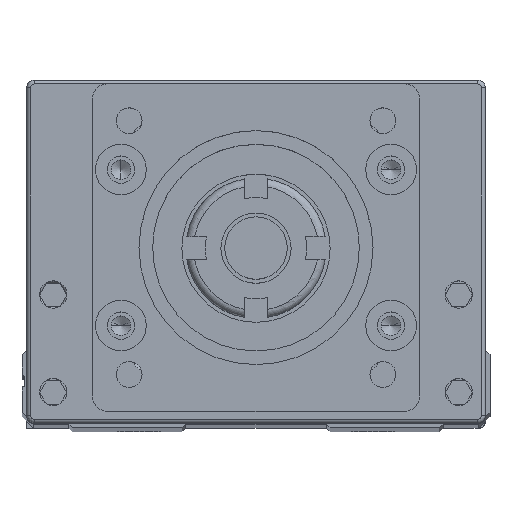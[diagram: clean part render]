
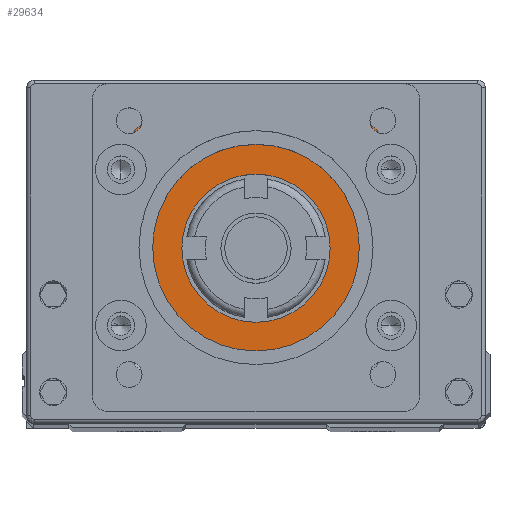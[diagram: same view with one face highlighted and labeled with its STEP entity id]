
A CAD part, top view. The second image highlights one B-rep face of the part: STEP entity #29634.
In plain terms, the highlighted planar face has unit normal (0, 0, 1).
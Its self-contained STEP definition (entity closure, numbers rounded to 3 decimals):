
#312 = CIRCLE ( 'NONE', #37315, 14. ) ;
#625 = DIRECTION ( 'NONE',  ( 0., -1., 0. ) ) ;
#655 = CARTESIAN_POINT ( 'NONE',  ( 12.935, 12.398, 168.5 ) ) ;
#809 = CARTESIAN_POINT ( 'NONE',  ( 52.335, 26.398, 168.5 ) ) ;
#1648 = LINE ( 'NONE', #36766, #21023 ) ;
#1926 = VECTOR ( 'NONE', #45859, 1000. ) ;
#2012 = VECTOR ( 'NONE', #16181, 1000. ) ;
#2049 = ORIENTED_EDGE ( 'NONE', *, *, #22756, .F. ) ;
#2461 = ORIENTED_EDGE ( 'NONE', *, *, #50773, .F. ) ;
#3057 = ORIENTED_EDGE ( 'NONE', *, *, #45437, .F. ) ;
#3196 = VECTOR ( 'NONE', #62003, 1000. ) ;
#3291 = DIRECTION ( 'NONE',  ( 0., 1., 0. ) ) ;
#3958 = ORIENTED_EDGE ( 'NONE', *, *, #7715, .F. ) ;
#4781 = EDGE_LOOP ( 'NONE', ( #30716, #48686, #2049, #20192, #2461, #16911, #3057, #3958, #47527, #38876, #30825, #26022, #53762, #33812 ) ) ;
#4784 = PLANE ( 'NONE',  #65295 ) ;
#4857 = CARTESIAN_POINT ( 'NONE',  ( 3.935, 26.398, 168.5 ) ) ;
#5637 = CARTESIAN_POINT ( 'NONE',  ( 40.32, 12.398, 168.5 ) ) ;
#6469 = VECTOR ( 'NONE', #62806, 1000. ) ;
#7257 = CARTESIAN_POINT ( 'NONE',  ( 12.935, 29.398, 168.5 ) ) ;
#7715 = EDGE_CURVE ( 'NONE', #45004, #54848, #41383, .T. ) ;
#8313 = DIRECTION ( 'NONE',  ( 0., 0., 1. ) ) ;
#9061 = VERTEX_POINT ( 'NONE', #25728 ) ;
#10193 = CARTESIAN_POINT ( 'NONE',  ( 51.735, 29.398, 168.5 ) ) ;
#11013 = EDGE_CURVE ( 'NONE', #60737, #51962, #1648, .T. ) ;
#11083 = EDGE_CURVE ( 'NONE', #45004, #13767, #64881, .T. ) ;
#11144 = CARTESIAN_POINT ( 'NONE',  ( 32.335, 23.898, 168.5 ) ) ;
#11624 = VECTOR ( 'NONE', #17752, 1000. ) ;
#12360 = EDGE_CURVE ( 'NONE', #13704, #50102, #312, .T. ) ;
#13647 = LINE ( 'NONE', #23829, #52864 ) ;
#13704 = VERTEX_POINT ( 'NONE', #5637 ) ;
#13767 = VERTEX_POINT ( 'NONE', #21204 ) ;
#15346 = DIRECTION ( 'NONE',  ( 0., 0., -1. ) ) ;
#15604 = VECTOR ( 'NONE', #57444, 1000. ) ;
#15689 = CARTESIAN_POINT ( 'NONE',  ( 12.935, 26.398, 168.5 ) ) ;
#16181 = DIRECTION ( 'NONE',  ( -1., 0., 0. ) ) ;
#16712 = CIRCLE ( 'NONE', #44307, 9.5 ) ;
#16911 = ORIENTED_EDGE ( 'NONE', *, *, #18882, .F. ) ;
#16958 = CARTESIAN_POINT ( 'NONE',  ( 22.835, 23.898, 168.5 ) ) ;
#16977 = CARTESIAN_POINT ( 'NONE',  ( 12.935, 32.398, 168.5 ) ) ;
#17230 = EDGE_CURVE ( 'NONE', #42707, #39587, #40648, .T. ) ;
#17752 = DIRECTION ( 'NONE',  ( 0., 1., 0. ) ) ;
#18408 = CARTESIAN_POINT ( 'NONE',  ( 12.935, 26.398, 168.5 ) ) ;
#18882 = EDGE_CURVE ( 'NONE', #29448, #19863, #46787, .T. ) ;
#19448 = CARTESIAN_POINT ( 'NONE',  ( 51.735, 32.398, 168.5 ) ) ;
#19863 = VERTEX_POINT ( 'NONE', #46406 ) ;
#20192 = ORIENTED_EDGE ( 'NONE', *, *, #12360, .F. ) ;
#21023 = VECTOR ( 'NONE', #3291, 1000. ) ;
#21204 = CARTESIAN_POINT ( 'NONE',  ( 52.335, 32.398, 168.5 ) ) ;
#22330 = DIRECTION ( 'NONE',  ( 1., 0., 0. ) ) ;
#22587 = DIRECTION ( 'NONE',  ( 0., 0., 1. ) ) ;
#22595 = EDGE_LOOP ( 'NONE', ( #41417, #31401 ) ) ;
#22756 = EDGE_CURVE ( 'NONE', #50102, #42528, #62232, .T. ) ;
#23033 = VECTOR ( 'NONE', #39352, 1000. ) ;
#23458 = CARTESIAN_POINT ( 'NONE',  ( 32.335, 23.898, 168.5 ) ) ;
#23829 = CARTESIAN_POINT ( 'NONE',  ( 12.935, 29.398, 168.5 ) ) ;
#23932 = VERTEX_POINT ( 'NONE', #35826 ) ;
#25017 = DIRECTION ( 'NONE',  ( 0., 1., 0. ) ) ;
#25728 = CARTESIAN_POINT ( 'NONE',  ( 52.335, 44.398, 168.5 ) ) ;
#25918 = AXIS2_PLACEMENT_3D ( 'NONE', #23458, #8313, #58978 ) ;
#26022 = ORIENTED_EDGE ( 'NONE', *, *, #11013, .F. ) ;
#26423 = CARTESIAN_POINT ( 'NONE',  ( 60.735, 26.398, 168.5 ) ) ;
#27263 = LINE ( 'NONE', #16977, #15604 ) ;
#28292 = CARTESIAN_POINT ( 'NONE',  ( 12.335, 32.398, 168.5 ) ) ;
#28863 = CARTESIAN_POINT ( 'NONE',  ( 60.735, 32.398, 168.5 ) ) ;
#29373 = VERTEX_POINT ( 'NONE', #7257 ) ;
#29448 = VERTEX_POINT ( 'NONE', #10193 ) ;
#29606 = FACE_OUTER_BOUND ( 'NONE', #4781, .T. ) ;
#29634 = ADVANCED_FACE ( 'NONE', ( #60780, #29606 ), #4784, .F. ) ;
#30609 = VECTOR ( 'NONE', #25017, 1000. ) ;
#30716 = ORIENTED_EDGE ( 'NONE', *, *, #30851, .F. ) ;
#30825 = ORIENTED_EDGE ( 'NONE', *, *, #33392, .F. ) ;
#30851 = EDGE_CURVE ( 'NONE', #29373, #42707, #37989, .T. ) ;
#31401 = ORIENTED_EDGE ( 'NONE', *, *, #35229, .F. ) ;
#31447 = LINE ( 'NONE', #62619, #41765 ) ;
#32250 = LINE ( 'NONE', #53167, #58511 ) ;
#33392 = EDGE_CURVE ( 'NONE', #51962, #9061, #32250, .T. ) ;
#33812 = ORIENTED_EDGE ( 'NONE', *, *, #17230, .F. ) ;
#35229 = EDGE_CURVE ( 'NONE', #57526, #23932, #60868, .T. ) ;
#35826 = CARTESIAN_POINT ( 'NONE',  ( 41.835, 23.898, 168.5 ) ) ;
#36766 = CARTESIAN_POINT ( 'NONE',  ( 12.335, 26.398, 168.5 ) ) ;
#37315 = AXIS2_PLACEMENT_3D ( 'NONE', #11144, #41291, #51541 ) ;
#37485 = CARTESIAN_POINT ( 'NONE',  ( 51.735, 26.398, 168.5 ) ) ;
#37906 = DIRECTION ( 'NONE',  ( 1., 0., 0. ) ) ;
#37989 = LINE ( 'NONE', #42625, #6469 ) ;
#38303 = EDGE_CURVE ( 'NONE', #42528, #29373, #52558, .T. ) ;
#38876 = ORIENTED_EDGE ( 'NONE', *, *, #59041, .F. ) ;
#39352 = DIRECTION ( 'NONE',  ( -1., 0., 0. ) ) ;
#39587 = VERTEX_POINT ( 'NONE', #54710 ) ;
#40648 = LINE ( 'NONE', #4857, #30609 ) ;
#41291 = DIRECTION ( 'NONE',  ( 0., 0., -1. ) ) ;
#41383 = LINE ( 'NONE', #26423, #52416 ) ;
#41417 = ORIENTED_EDGE ( 'NONE', *, *, #60064, .F. ) ;
#41765 = VECTOR ( 'NONE', #47749, 1000. ) ;
#42528 = VERTEX_POINT ( 'NONE', #57906 ) ;
#42625 = CARTESIAN_POINT ( 'NONE',  ( 12.935, 29.398, 168.5 ) ) ;
#42707 = VERTEX_POINT ( 'NONE', #55884 ) ;
#44307 = AXIS2_PLACEMENT_3D ( 'NONE', #52796, #22587, #37906 ) ;
#45004 = VERTEX_POINT ( 'NONE', #28863 ) ;
#45232 = DIRECTION ( 'NONE',  ( 0., -1., 0. ) ) ;
#45437 = EDGE_CURVE ( 'NONE', #54848, #29448, #13647, .T. ) ;
#45859 = DIRECTION ( 'NONE',  ( 0., -1., 0. ) ) ;
#46406 = CARTESIAN_POINT ( 'NONE',  ( 51.735, 12.398, 168.5 ) ) ;
#46787 = LINE ( 'NONE', #37485, #3196 ) ;
#47527 = ORIENTED_EDGE ( 'NONE', *, *, #11083, .T. ) ;
#47749 = DIRECTION ( 'NONE',  ( -1., 0., 0. ) ) ;
#48184 = CARTESIAN_POINT ( 'NONE',  ( 24.351, 12.398, 168.5 ) ) ;
#48686 = ORIENTED_EDGE ( 'NONE', *, *, #38303, .F. ) ;
#50102 = VERTEX_POINT ( 'NONE', #48184 ) ;
#50442 = CARTESIAN_POINT ( 'NONE',  ( 60.735, 29.398, 168.5 ) ) ;
#50773 = EDGE_CURVE ( 'NONE', #19863, #13704, #31447, .T. ) ;
#51541 = DIRECTION ( 'NONE',  ( 1., 0., 0. ) ) ;
#51962 = VERTEX_POINT ( 'NONE', #60544 ) ;
#52416 = VECTOR ( 'NONE', #625, 1000. ) ;
#52558 = LINE ( 'NONE', #18408, #11624 ) ;
#52796 = CARTESIAN_POINT ( 'NONE',  ( 32.335, 23.898, 168.5 ) ) ;
#52864 = VECTOR ( 'NONE', #53076, 1000. ) ;
#53076 = DIRECTION ( 'NONE',  ( -1., 0., 0. ) ) ;
#53167 = CARTESIAN_POINT ( 'NONE',  ( 12.935, 44.398, 168.5 ) ) ;
#53309 = EDGE_CURVE ( 'NONE', #39587, #60737, #27263, .T. ) ;
#53762 = ORIENTED_EDGE ( 'NONE', *, *, #53309, .F. ) ;
#54710 = CARTESIAN_POINT ( 'NONE',  ( 3.935, 32.398, 168.5 ) ) ;
#54848 = VERTEX_POINT ( 'NONE', #50442 ) ;
#55884 = CARTESIAN_POINT ( 'NONE',  ( 3.935, 29.398, 168.5 ) ) ;
#56775 = LINE ( 'NONE', #809, #1926 ) ;
#57444 = DIRECTION ( 'NONE',  ( 1., 0., 0. ) ) ;
#57526 = VERTEX_POINT ( 'NONE', #16958 ) ;
#57906 = CARTESIAN_POINT ( 'NONE',  ( 12.935, 12.398, 168.5 ) ) ;
#58511 = VECTOR ( 'NONE', #22330, 1000. ) ;
#58978 = DIRECTION ( 'NONE',  ( 1., 0., 0. ) ) ;
#59041 = EDGE_CURVE ( 'NONE', #9061, #13767, #56775, .T. ) ;
#60064 = EDGE_CURVE ( 'NONE', #23932, #57526, #16712, .T. ) ;
#60544 = CARTESIAN_POINT ( 'NONE',  ( 12.335, 44.398, 168.5 ) ) ;
#60737 = VERTEX_POINT ( 'NONE', #28292 ) ;
#60780 = FACE_BOUND ( 'NONE', #22595, .T. ) ;
#60868 = CIRCLE ( 'NONE', #25918, 9.5 ) ;
#62003 = DIRECTION ( 'NONE',  ( 0., -1., 0. ) ) ;
#62232 = LINE ( 'NONE', #655, #2012 ) ;
#62619 = CARTESIAN_POINT ( 'NONE',  ( 12.935, 12.398, 168.5 ) ) ;
#62806 = DIRECTION ( 'NONE',  ( -1., 0., 0. ) ) ;
#64881 = LINE ( 'NONE', #19448, #23033 ) ;
#65295 = AXIS2_PLACEMENT_3D ( 'NONE', #15689, #15346, #45232 ) ;
